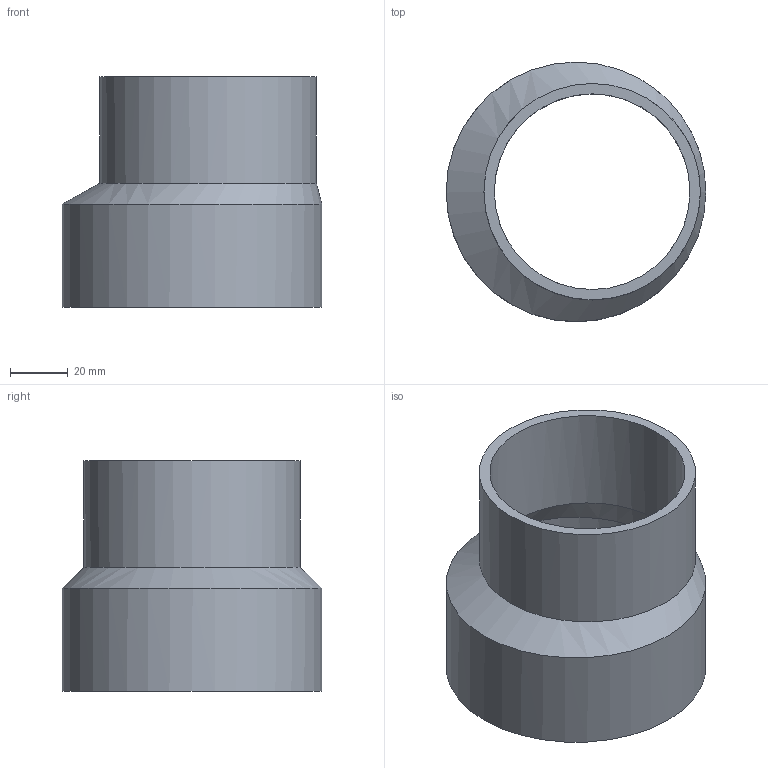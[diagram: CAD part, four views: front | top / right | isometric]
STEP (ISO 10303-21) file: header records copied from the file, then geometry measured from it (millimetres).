
FILE_DESCRIPTION(/* description */ (''),/* implementation_level */ '2;1');
FILE_NAME(/* name */ 'Z:\Geberit\Export\NewStep\Reduktion_Ipart\stp\308070.stp',/* time_stamp */ '2014-04-03T18:13:59+02:00',/* author */ ('nelson'),/* organization */ (''),/* preprocessor_version */ 'ST-DEVELOPER v15.2',/* originating_system */ 'Autodesk Inventor 2014',/* authorisation */ '');
FILE_SCHEMA (('AUTOMOTIVE_DESIGN { 1 0 10303 214 3 1 1 }'));
Length unit declared in the file: millimetre
Products named in the file (1): 308070
Bounding box: 90 x 90 x 80 mm (x, y, z)
Volume: 90227.2 mm3; surface area: 42901.5 mm2
Topology: 1 solids, 1 shells, 8 faces, 18 edges, 12 vertices
Faces by surface type: cylinder 4, bspline 2, plane 2
Full cylindrical faces by diameter (mm): 67.8 x1, 75 x1, 79 x1, 90 x1
Entity records: 271 total; most frequent: CARTESIAN_POINT 71, DIRECTION 38, ORIENTED_EDGE 28, AXIS2_PLACEMENT_3D 19, EDGE_LOOP 14, EDGE_CURVE 14, CIRCLE 12, VERTEX_POINT 12
